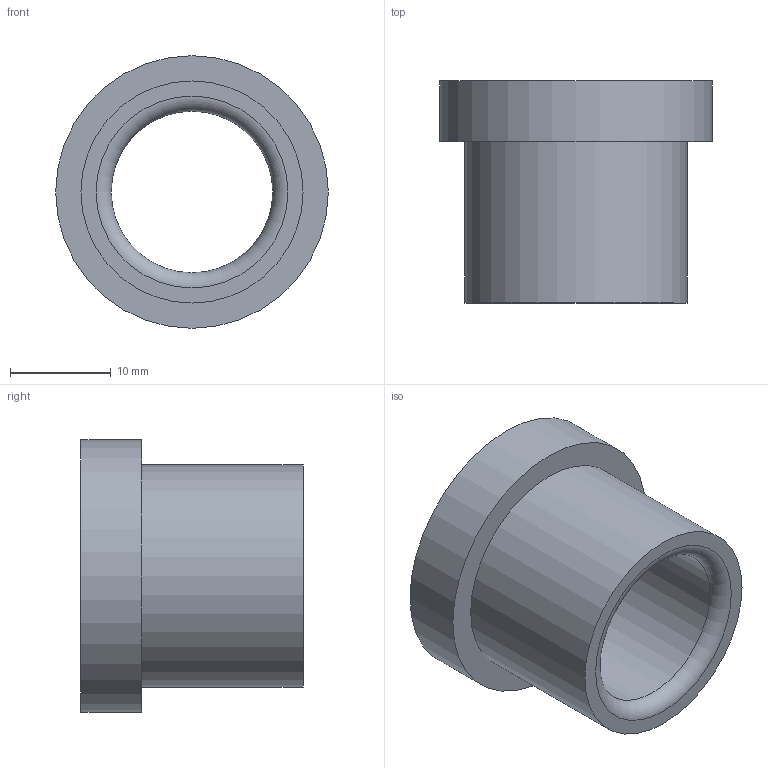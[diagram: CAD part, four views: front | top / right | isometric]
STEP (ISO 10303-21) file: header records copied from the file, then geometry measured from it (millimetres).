
FILE_DESCRIPTION(/* description */ ('STEP AP214'),/* implementation_level */ '2;1');
FILE_NAME(/* name */ '03_12_17912',/* time_stamp */ '2023-06-15T11:35:27+02:00',/* author */ ('License CC BY-ND 4.0'),/* organization */ ('CADENAS'),/* preprocessor_version */ 'ST-DEVELOPER v19.3',/* originating_system */ 'PARTsolutions',/* authorisation */ ' ');
FILE_SCHEMA (('AUTOMOTIVE_DESIGN {1 0 10303 214 3 1 1}'));
Length unit declared in the file: millimetre
Products named in the file (1): VA_Bushing_17912
Bounding box: 27 x 22 x 27 mm (x, y, z)
Volume: 4975 mm3; surface area: 3408 mm2
Topology: 1 solids, 1 shells, 10 faces, 16 edges, 10 vertices
Faces by surface type: cylinder 4, plane 4, torus 2
Full cylindrical faces by diameter (mm): 16 x1, 16.6 x1, 22 x1, 27 x1
Entity records: 302 total; most frequent: DIRECTION 42, CARTESIAN_POINT 31, AXIS2_PLACEMENT_3D 21, ORIENTED_EDGE 20, EDGE_LOOP 20, FACE_BOUND 20, EDGE_CURVE 10, VERTEX_POINT 10
